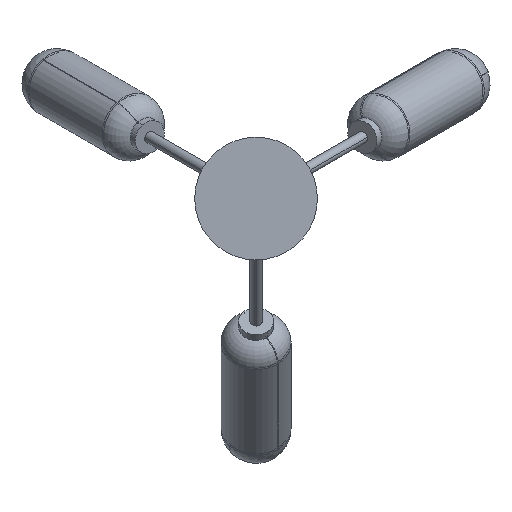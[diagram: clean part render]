
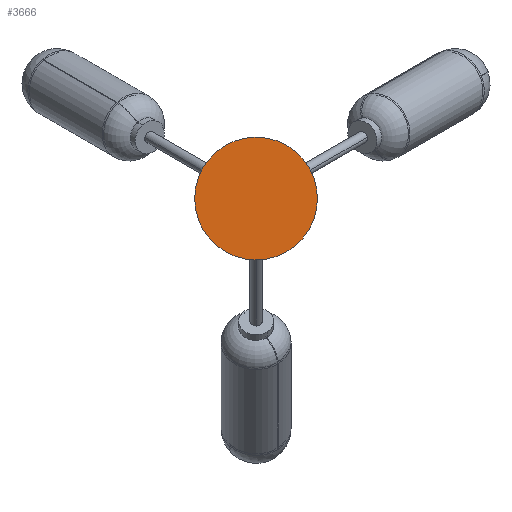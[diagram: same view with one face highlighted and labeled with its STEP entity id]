
A CAD part, front view. The second image highlights one B-rep face of the part: STEP entity #3666.
In plain terms, the highlighted planar face has unit normal (0, -1, 0).
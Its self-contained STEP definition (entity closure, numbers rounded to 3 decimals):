
#242 = CARTESIAN_POINT ( 'NONE',  ( -221.554, -521.585, 1208.042 ) ) ;
#284 = EDGE_CURVE ( 'NONE', #2047, #644, #719, .T. ) ;
#330 = DIRECTION ( 'NONE',  ( 0., 1., 0. ) ) ;
#644 = VERTEX_POINT ( 'NONE', #741 ) ;
#719 = CIRCLE ( 'NONE', #1444, 70. ) ;
#741 = CARTESIAN_POINT ( 'NONE',  ( -221.554, -521.585, 1278.042 ) ) ;
#887 = DIRECTION ( 'NONE',  ( 0., 1., 0. ) ) ;
#1166 = EDGE_CURVE ( 'NONE', #644, #2047, #2355, .T. ) ;
#1279 = DIRECTION ( 'NONE',  ( 0., 0., 1. ) ) ;
#1444 = AXIS2_PLACEMENT_3D ( 'NONE', #242, #887, #3968 ) ;
#1462 = ORIENTED_EDGE ( 'NONE', *, *, #1166, .F. ) ;
#1568 = DIRECTION ( 'NONE',  ( 0., 0., 1. ) ) ;
#1697 = ORIENTED_EDGE ( 'NONE', *, *, #284, .F. ) ;
#2047 = VERTEX_POINT ( 'NONE', #3161 ) ;
#2178 = DIRECTION ( 'NONE',  ( 0., 1., 0. ) ) ;
#2241 = PLANE ( 'NONE',  #2908 ) ;
#2255 = AXIS2_PLACEMENT_3D ( 'NONE', #3103, #2178, #1568 ) ;
#2355 = CIRCLE ( 'NONE', #2255, 70. ) ;
#2908 = AXIS2_PLACEMENT_3D ( 'NONE', #3122, #330, #1279 ) ;
#3103 = CARTESIAN_POINT ( 'NONE',  ( -221.554, -521.585, 1208.042 ) ) ;
#3122 = CARTESIAN_POINT ( 'NONE',  ( -221.554, -521.585, 1208.042 ) ) ;
#3161 = CARTESIAN_POINT ( 'NONE',  ( -221.554, -521.585, 1138.042 ) ) ;
#3239 = FACE_OUTER_BOUND ( 'NONE', #3591, .T. ) ;
#3591 = EDGE_LOOP ( 'NONE', ( #1697, #1462 ) ) ;
#3666 = ADVANCED_FACE ( 'NONE', ( #3239 ), #2241, .F. ) ;
#3968 = DIRECTION ( 'NONE',  ( 0., 0., 1. ) ) ;
